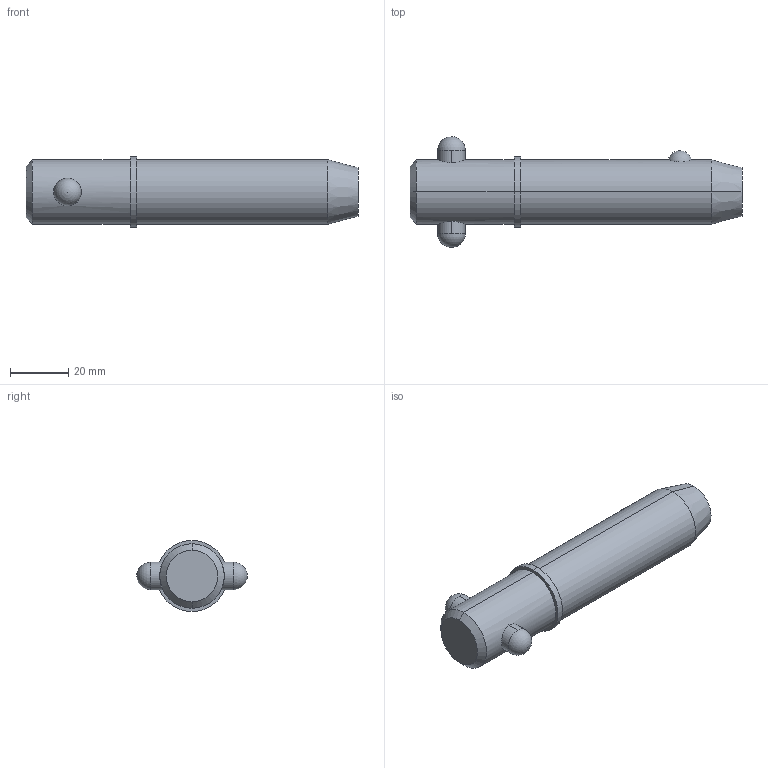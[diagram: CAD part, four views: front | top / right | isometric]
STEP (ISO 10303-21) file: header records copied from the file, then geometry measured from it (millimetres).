
FILE_DESCRIPTION (( 'STEP AP203' ), '1' );
FILE_NAME ('33018.W8820.step', '2024-11-19T17:22:00', ( '' ), ( '' ), 'SwSTEP 2.0', 'SolidWorks 2019', '' );
FILE_SCHEMA (( 'CONFIG_CONTROL_DESIGN' ));
Length unit declared in the file: millimetre
Products named in the file (3): 33018.W8820; Part1_33018.W8820; Part2_33018.W8820
Assembly tree (2 placements, depth 2):
  33018.W8820
    Part1_33018.W8820
    Part2_33018.W8820
Bounding box: 114.3 x 38.1 x 24.45 mm (x, y, z)
Volume: 44504.7 mm3; surface area: 10265.8 mm2
Topology: 2 solids, 2 shells, 22 faces, 47 edges, 30 vertices
Faces by surface type: cylinder 10, sphere 4, cone 4, plane 4
Entity records: 1057 total; most frequent: CARTESIAN_POINT 300, DIRECTION 110, ORIENTED_EDGE 82, AXIS2_PLACEMENT_3D 48, EDGE_CURVE 41, EDGE_LOOP 27, PERSON_AND_ORGANIZATION 26, VERTEX_POINT 26
